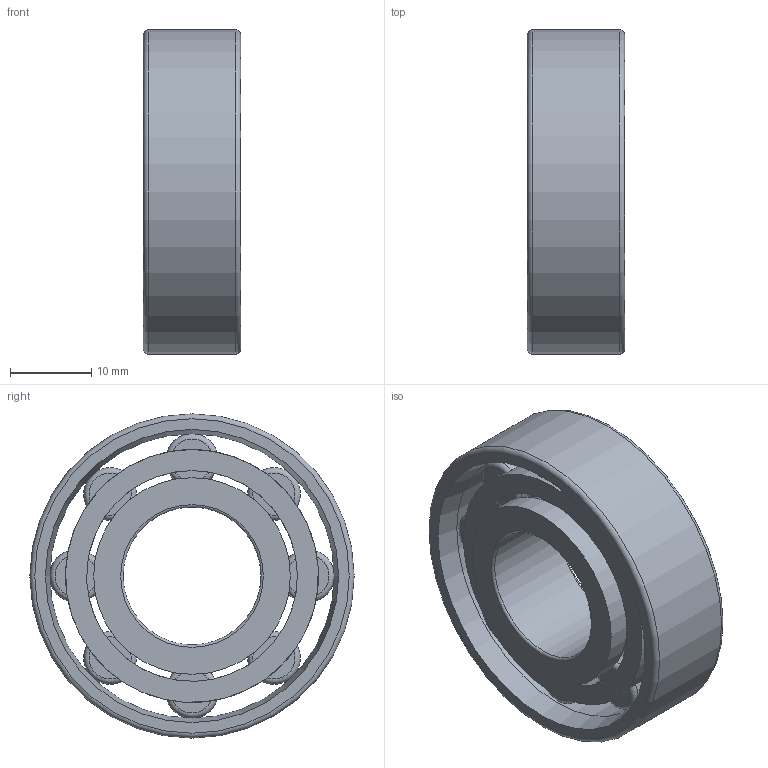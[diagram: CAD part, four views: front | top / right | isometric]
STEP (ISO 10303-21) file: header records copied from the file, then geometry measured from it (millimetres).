
FILE_DESCRIPTION(/* description */ (''),/* implementation_level */ '2;1');
FILE_NAME(/* name */ 'D:\moje\parametrické\RADIALN VALCEKY\N\N2--\N2--_\N203EDM.stp',/* time_stamp */ '2016-09-12T09:03:41+02:00',/* author */ ('OUBALASKO'),/* organization */ (''),/* preprocessor_version */ 'ST-DEVELOPER v15.6',/* originating_system */ 'Autodesk Inventor 2015',/* authorisation */ '');
FILE_SCHEMA (('AUTOMOTIVE_DESIGN { 1 0 10303 214 3 1 1 }'));
Length unit declared in the file: millimetre
Products named in the file (7): N203EDM-02; N203EDM-roller; N203EDM-01; N203EDM-EDMcage01; N203EDM-EDMcage02; N203EDM-EDMcage; N203EDM
Assembly tree (13 placements, depth 3):
  N203EDM
    N203EDM-02
    N203EDM-roller  x8
    N203EDM-01
    N203EDM-EDMcage
      N203EDM-EDMcage01
      N203EDM-EDMcage02
Bounding box: 12 x 40 x 40 mm (x, y, z)
Volume: 8294.8 mm3; surface area: 8940.4 mm2
Topology: 12 solids, 12 shells, 161 faces, 338 edges, 218 vertices
Faces by surface type: plane 89, cylinder 50, torus 20, cone 2
Full cylindrical faces by diameter (mm): 0.65 x16, 6.5 x8, 17 x1, 22.1 x1, 24.267 x2, 26 x2, 31.2 x2, 35.1 x1, 40 x1
Entity records: 3652 total; most frequent: DIRECTION 668, CARTESIAN_POINT 586, ORIENTED_EDGE 504, AXIS2_PLACEMENT_3D 270, EDGE_CURVE 252, EDGE_LOOP 202, VERTEX_POINT 188, LINE 128
